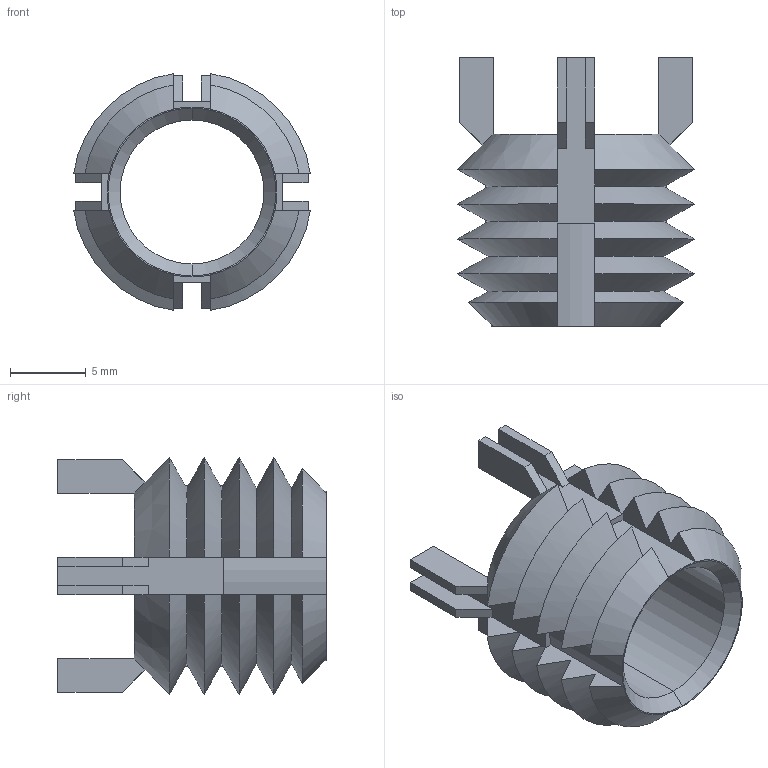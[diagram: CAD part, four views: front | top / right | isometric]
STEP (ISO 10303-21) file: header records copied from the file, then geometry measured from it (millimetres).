
FILE_DESCRIPTION (( 'STEP AP203' ), '1' );
FILE_NAME ('Default.step', '2023-04-20T09:54:33', ( '' ), ( '' ), 'SwSTEP 2.0', 'SolidWorks 2019', '' );
FILE_SCHEMA (( 'CONFIG_CONTROL_DESIGN' ));
Length unit declared in the file: millimetre
Products named in the file (1): Default
Bounding box: 15.68 x 17.77 x 15.68 mm (x, y, z)
Volume: 889.5 mm3; surface area: 1684.1 mm2
Topology: 1 solids, 1 shells, 143 faces, 366 edges, 224 vertices
Faces by surface type: plane 93, cone 44, cylinder 6
Entity records: 4429 total; most frequent: CARTESIAN_POINT 1112, ORIENTED_EDGE 732, DIRECTION 590, EDGE_CURVE 366, VERTEX_POINT 224, AXIS2_PLACEMENT_3D 206, LINE 178, VECTOR 178
